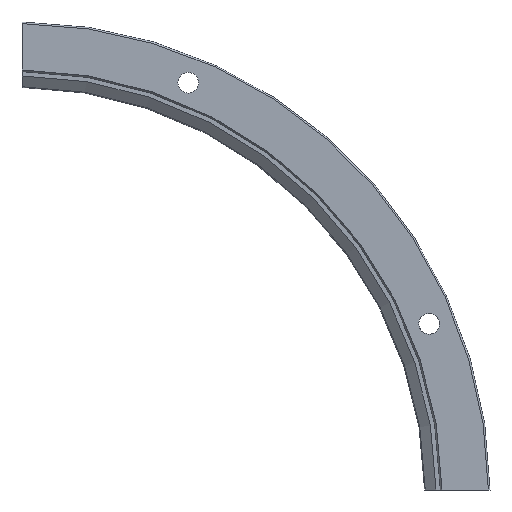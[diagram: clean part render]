
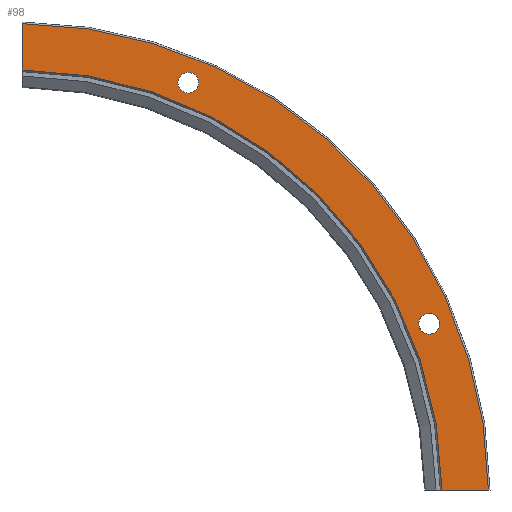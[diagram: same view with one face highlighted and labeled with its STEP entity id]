
A CAD part, front view. The second image highlights one B-rep face of the part: STEP entity #98.
In plain terms, the highlighted planar face has unit normal (0, -1, 0).
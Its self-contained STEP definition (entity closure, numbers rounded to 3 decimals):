
#98=ADVANCED_FACE('',(#126,#127,#128),#129,.T.);
#126=FACE_OUTER_BOUND('',#176,.T.);
#127=FACE_BOUND('',#177,.T.);
#128=FACE_BOUND('',#178,.T.);
#129=PLANE('',#179);
#176=EDGE_LOOP('',(#259,#260,#261,#262));
#177=EDGE_LOOP('',(#263));
#178=EDGE_LOOP('',(#264));
#179=AXIS2_PLACEMENT_3D('',#265,#266,#267);
#259=ORIENTED_EDGE('',*,*,#373,.F.);
#260=ORIENTED_EDGE('',*,*,#385,.T.);
#261=ORIENTED_EDGE('',*,*,#386,.F.);
#262=ORIENTED_EDGE('',*,*,#374,.T.);
#263=ORIENTED_EDGE('',*,*,#387,.F.);
#264=ORIENTED_EDGE('',*,*,#388,.F.);
#265=CARTESIAN_POINT('',(108.1,0.0,0.0));
#266=DIRECTION('',(0.0,-1.0,0.0));
#267=DIRECTION('',(0.0,0.0,-1.0));
#373=EDGE_CURVE('',#427,#406,#429,.T.);
#374=EDGE_CURVE('',#430,#406,#431,.T.);
#385=EDGE_CURVE('',#427,#448,#449,.F.);
#386=EDGE_CURVE('',#430,#448,#450,.T.);
#387=EDGE_CURVE('',#451,#451,#452,.T.);
#388=EDGE_CURVE('',#453,#453,#454,.T.);
#406=VERTEX_POINT('',#482);
#427=VERTEX_POINT('',#527);
#429=LINE('',#532,#533);
#430=VERTEX_POINT('',#534);
#431=CIRCLE('',#535,113.7);
#448=VERTEX_POINT('',#560);
#449=CIRCLE('',#561,102.5);
#450=LINE('',#562,#563);
#451=VERTEX_POINT('',#564);
#452=CIRCLE('',#565,2.5);
#453=VERTEX_POINT('',#566);
#454=CIRCLE('',#567,2.5);
#482=CARTESIAN_POINT('',(1.0,0.0,113.696));
#527=CARTESIAN_POINT('',(1.0,0.,102.495));
#532=CARTESIAN_POINT('',(1.0,0.0,0.0));
#533=VECTOR('',#618,1.0);
#534=CARTESIAN_POINT('',(113.696,0.0,1.0));
#535=AXIS2_PLACEMENT_3D('',#619,#620,#621);
#560=CARTESIAN_POINT('',(102.495,0.0,1.0));
#561=AXIS2_PLACEMENT_3D('',#642,#643,#644);
#562=CARTESIAN_POINT('',(108.1,0.0,1.0));
#563=VECTOR('',#645,1.0);
#564=CARTESIAN_POINT('',(101.177,0.0,39.409));
#565=AXIS2_PLACEMENT_3D('',#646,#647,#648);
#566=CARTESIAN_POINT('',(43.677,0.0,99.409));
#567=AXIS2_PLACEMENT_3D('',#649,#650,#651);
#618=DIRECTION('',(0.0,0.0,1.0));
#619=CARTESIAN_POINT('',(0.0,0.0,0.0));
#620=DIRECTION('',(0.0,-1.0,0.0));
#621=DIRECTION('',(0.0,0.0,-1.0));
#642=CARTESIAN_POINT('',(0.0,0.0,0.0));
#643=DIRECTION('',(0.0,-1.0,0.0));
#644=DIRECTION('',(0.0,0.0,-1.0));
#645=DIRECTION('',(-1.0,0.0,0.0));
#646=CARTESIAN_POINT('',(99.409,0.0,41.177));
#647=DIRECTION('',(0.0,-1.0,0.0));
#648=DIRECTION('',(0.707,0.0,-0.707));
#649=CARTESIAN_POINT('',(41.177,0.0,99.409));
#650=DIRECTION('',(0.0,-1.0,0.0));
#651=DIRECTION('',(1.0,0.0,0.0));
